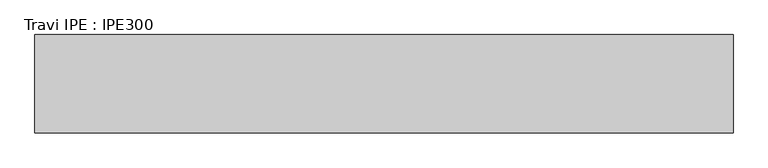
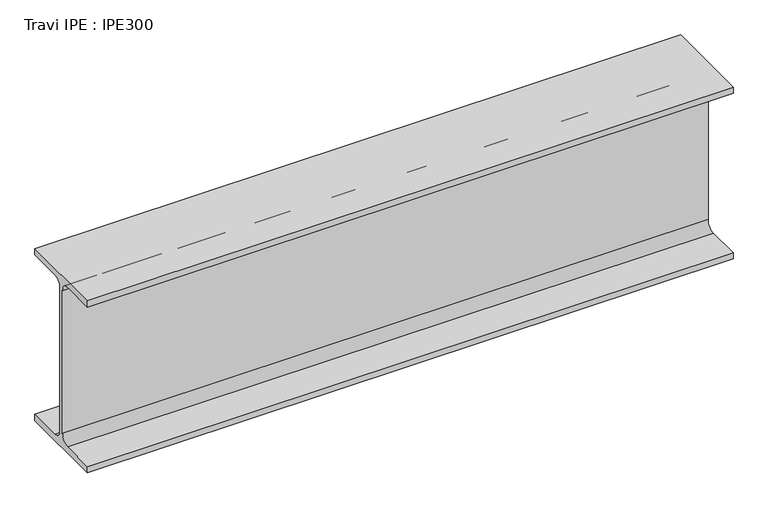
"""IFC4 building model written with IfcOpenShell, lengths in millimetres: beam geometry, Travi IPE : IPE300."""

import ifcopenshell
import ifcopenshell.guid

model = None  # the IFC model being written
_history = None  # IfcOwnerHistory: only IFC2X3 demands one
_inside = {}  # id of a spatial element -> (the spatial element, [elements in it])
_under = {}  # id of a project, library or spatial element -> (it, [spatial elements below it])
_declared = {}  # id of a project -> (the project, [libraries it declares])
_typed = {}  # id of a type object -> (the type object, [elements of that type])
_made_of = {}  # id of a material, layer set ... -> (it, [elements and type objects made of it])


def new_model(schema):
    """Start an empty IFC model of exactly this schema.

    Asked for "IFC4X3", IfcOpenShell would pick the latest addendum, in which some entities
    have other attributes; the version numbers below select the first issue.
    IFC2X3 requires an IfcOwnerHistory on every rooted entity: one is made here for all.
    """
    global model, _history
    if schema == "IFC4X3":
        model = ifcopenshell.file(schema_version=(4, 3, 0, 0))
    else:
        model = ifcopenshell.file(schema=schema)
    _inside.clear()
    _under.clear()
    _declared.clear()
    _typed.clear()
    _made_of.clear()
    _history = None
    if model.schema == "IFC2X3":
        org = make("IfcOrganization", Name="unknown")
        user = make(
            "IfcPersonAndOrganization",
            ThePerson=make("IfcPerson", FamilyName="unknown"),
            TheOrganization=org,
        )
        app = make(
            "IfcApplication",
            ApplicationDeveloper=org,
            Version="unknown",
            ApplicationFullName="unknown",
            ApplicationIdentifier="unknown",
        )
        _history = make(
            "IfcOwnerHistory",
            OwningUser=user,
            OwningApplication=app,
            ChangeAction="ADDED",
            CreationDate=0,
        )
    return model


def make(cls, **values):
    """One entity of the class cls with the attributes given. An attribute that is None is left unset."""
    return model.create_entity(
        cls, **{name: value for name, value in values.items() if value is not None}
    )


def rooted(cls, **values):
    """An entity with a GlobalId (a new one), such as an element, a storey or a relation."""
    return make(cls, GlobalId=ifcopenshell.guid.new(), OwnerHistory=_history, **values)


def si_unit(unit_type, name, prefix=None):
    """IfcSIUnit, for example si_unit("LENGTHUNIT", "METRE", prefix="MILLI")."""
    return make("IfcSIUnit", UnitType=unit_type, Prefix=prefix, Name=name)


def assignment(units):
    """IfcUnitAssignment: the units of a project."""
    return None if units is None else make("IfcUnitAssignment", Units=units)


def point(xyz):
    """IfcCartesianPoint."""
    return None if xyz is None else make("IfcCartesianPoint", Coordinates=xyz)


def direction(xyz):
    """IfcDirection."""
    return None if xyz is None else make("IfcDirection", DirectionRatios=xyz)


def frame(location, z_axis=None, x_axis=None):
    """IfcAxis2Placement3D, a coordinate frame: its origin and axes. An axis left out is left unset."""
    return make(
        "IfcAxis2Placement3D",
        Location=point(location),
        Axis=direction(z_axis),
        RefDirection=direction(x_axis),
    )


def frame_2d(location, x_axis=None):
    """IfcAxis2Placement2D, a coordinate frame in the plane: its origin and x axis."""
    return make(
        "IfcAxis2Placement2D", Location=point(location), RefDirection=direction(x_axis)
    )


def origin():
    """The frame at (0, 0, 0) with its axes left unset."""
    return frame((0.0, 0.0, 0.0))


def place(relative_to, where):
    """IfcLocalPlacement: puts the frame where relative to a parent placement (None: the world)."""
    return make(
        "IfcLocalPlacement", PlacementRelTo=relative_to, RelativePlacement=where
    )


def context(
    kind, dimensions, precision=None, world=None, true_north=None, identifier=None
):
    """IfcGeometricRepresentationContext, for example the 3D "Model" context."""
    return make(
        "IfcGeometricRepresentationContext",
        ContextIdentifier=identifier,
        ContextType=kind,
        CoordinateSpaceDimension=dimensions,
        Precision=precision,
        WorldCoordinateSystem=world,
        TrueNorth=true_north,
    )


def project(units=None, contexts=None):
    """IfcProject with its units and contexts."""
    return rooted(
        "IfcProject",
        Name="project",
        RepresentationContexts=contexts,
        UnitsInContext=assignment(units),
    )


def spatial(cls, under=None, at=None, **own):
    """A site, building, storey or space (cls), placed at a placement, below another one or the project."""
    s = rooted(cls, ObjectPlacement=at, **own)
    if under is not None:
        _under.setdefault(under.id(), (under, []))[1].append(s)
    return s


def polyline(points):
    """IfcPolyline through the points."""
    return make("IfcPolyline", Points=[point(p) for p in points])


def circle_curve(where, radius):
    """IfcCircle in the frame where."""
    return make("IfcCircle", Position=where, Radius=radius)


def trimmed(basis, trim1, trim2, sense, master):
    """IfcTrimmedCurve: the piece of a basis curve between two trims."""
    return make(
        "IfcTrimmedCurve",
        BasisCurve=basis,
        Trim1=trim1,
        Trim2=trim2,
        SenseAgreement=sense,
        MasterRepresentation=master,
    )


def segment(curve, same_sense, transition):
    """IfcCompositeCurveSegment."""
    return make(
        "IfcCompositeCurveSegment",
        Transition=transition,
        SameSense=same_sense,
        ParentCurve=curve,
    )


def composite_curve(segments, self_intersect=None):
    """IfcCompositeCurve: segments joined end to end."""
    return make("IfcCompositeCurve", Segments=segments, SelfIntersect=self_intersect)


def outline(outer, holes=None, kind="AREA"):
    """IfcArbitraryClosedProfileDef: a profile drawn as a closed curve; with holes, ...WithVoids."""
    if holes is None:
        return make("IfcArbitraryClosedProfileDef", ProfileType=kind, OuterCurve=outer)
    return make(
        "IfcArbitraryProfileDefWithVoids",
        ProfileType=kind,
        OuterCurve=outer,
        InnerCurves=holes,
    )


def extrude(swept, where, along, depth):
    """IfcExtrudedAreaSolid: the profile swept, set in the frame where, extruded along a direction by depth."""
    return make(
        "IfcExtrudedAreaSolid",
        SweptArea=swept,
        Position=where,
        ExtrudedDirection=direction(along),
        Depth=depth,
    )


def shape(context_of_items, identifier, shape_type, items):
    """IfcShapeRepresentation: the items that make up one representation, for example the "Body"."""
    return make(
        "IfcShapeRepresentation",
        ContextOfItems=context_of_items,
        RepresentationIdentifier=identifier,
        RepresentationType=shape_type,
        Items=items,
    )


def source(mapping_origin, context_of_items, identifier, shape_type, items):
    """IfcRepresentationMap: a shape defined once, which mapped items show again and again."""
    return make(
        "IfcRepresentationMap",
        MappingOrigin=mapping_origin,
        MappedRepresentation=shape(context_of_items, identifier, shape_type, items),
    )


def transform(
    local_origin,
    x_axis=None,
    y_axis=None,
    z_axis=None,
    scale=None,
    scale2=None,
    scale3=None,
    uniform=True,
):
    """IfcCartesianTransformationOperator3D, or its non-uniform kind. x_axis, y_axis, z_axis: its Axis1, 2, 3."""
    if uniform:
        return make(
            "IfcCartesianTransformationOperator3D",
            Axis1=direction(x_axis),
            Axis2=direction(y_axis),
            LocalOrigin=point(local_origin),
            Scale=scale,
            Axis3=direction(z_axis),
        )
    return make(
        "IfcCartesianTransformationOperator3DnonUniform",
        Axis1=direction(x_axis),
        Axis2=direction(y_axis),
        LocalOrigin=point(local_origin),
        Scale=scale,
        Axis3=direction(z_axis),
        Scale2=scale2,
        Scale3=scale3,
    )


def mapped(mapping_source, mapping_target):
    """IfcMappedItem: shows the shape of a source again, moved by a transform."""
    return make(
        "IfcMappedItem", MappingSource=mapping_source, MappingTarget=mapping_target
    )


def made_of(thing, what):
    """Note that an element or type object is made of a material, layer set ...; save() writes the relation."""
    if what is not None:
        _made_of.setdefault(what.id(), (what, []))[1].append(thing)
    return thing


def element(
    cls,
    number,
    at=None,
    inside=None,
    cuts=None,
    type_object=None,
    material=None,
    context=None,
    identifier="Body",
    shape_type=None,
    held_by="IfcProductDefinitionShape",
    body=None,
    shapes=None,
    **own,
):
    """One element of the class cls, such as IfcWall. Its Tag is "e" and its number.

    at: its placement. inside: the storey or other place that contains it. cuts: it is an
    opening in that element (IfcRelVoidsElement). A single representation is given by context,
    identifier, shape_type and body (its items); several are given by shapes. held_by: the class
    of the entity that holds the representations. save() writes the other relations.
    """
    e = rooted(cls, Tag="e%d" % number, ObjectPlacement=at, **own)
    if body is not None:
        shapes = [shape(context, identifier, shape_type, body)]
    if shapes is not None:
        e.Representation = make(held_by, Representations=shapes)
    if inside is not None:
        _inside.setdefault(inside.id(), (inside, []))[1].append(e)
    if cuts is not None:
        rooted(
            "IfcRelVoidsElement", RelatingBuildingElement=cuts, RelatedOpeningElement=e
        )
    if type_object is not None:
        _typed.setdefault(type_object.id(), (type_object, []))[1].append(e)
    return made_of(e, material)


def aggregate(whole, parts):
    """IfcRelAggregates: a whole, such as a stair, and the parts it consists of."""
    return rooted("IfcRelAggregates", RelatingObject=whole, RelatedObjects=parts)


def save(model, path):
    """Write the relations noted so far, then the file.

    IfcRelAggregates (storeys below a building ...), IfcRelContainedInSpatialStructure (elements
    in a storey), IfcRelDefinesByType, IfcRelAssociatesMaterial and IfcRelDeclares: one each for
    every whole, place, type object, material and project.
    """
    for whole, parts in _under.values():
        aggregate(whole, parts)
    for where, things in _inside.values():
        rooted(
            "IfcRelContainedInSpatialStructure",
            RelatedElements=things,
            RelatingStructure=where,
        )
    for kind, things in _typed.values():
        rooted("IfcRelDefinesByType", RelatedObjects=things, RelatingType=kind)
    for what, things in _made_of.values():
        rooted("IfcRelAssociatesMaterial", RelatedObjects=things, RelatingMaterial=what)
    for by, libraries in _declared.values():
        rooted("IfcRelDeclares", RelatingContext=by, RelatedDefinitions=libraries)
    model.write(path)


def travi_ipe_ipe300_a3e41ca1(model_context):
    return source(origin(), model_context, "Body", "SweptSolid", [
        extrude(outline(composite_curve([segment(polyline([(75.0, -139.3), (75.0, -150.0), (-75.0, -150.0), (-75.0, -139.3), (-18.55, -139.3)]), True, "CONTINUOUS"), segment(trimmed(circle_curve(frame_2d((-18.55, -124.3)), 15.0), [point((-18.55, -139.3))], [point((-3.55, -124.3))], True, "CARTESIAN"), True, "CONTINUOUS"), segment(polyline([(-3.55, -124.3), (-3.55, 124.3)]), True, "CONTINUOUS"), segment(trimmed(circle_curve(frame_2d((-18.55, 124.3)), 15.0), [point((-3.55, 124.3))], [point((-18.55, 139.3))], True, "CARTESIAN"), True, "CONTINUOUS"), segment(polyline([(-18.55, 139.3), (-75.0, 139.3), (-75.0, 150.0), (75.0, 150.0), (75.0, 139.3), (18.55, 139.3)]), True, "CONTINUOUS"), segment(trimmed(circle_curve(frame_2d((18.55, 124.3)), 15.0), [point((18.55, 139.3))], [point((3.55, 124.3))], True, "CARTESIAN"), True, "CONTINUOUS"), segment(polyline([(3.55, 124.3), (3.55, -124.3)]), True, "CONTINUOUS"), segment(trimmed(circle_curve(frame_2d((18.55, -124.3)), 15.0), [point((3.55, -124.3))], [point((18.55, -139.3))], True, "CARTESIAN"), True, "CONTINUOUS"), segment(polyline([(18.55, -139.3), (75.0, -139.3)]), True, "CONTINUOUS")], self_intersect=False)), frame((-532.5, 0.0, 0.0), z_axis=(1.0, 0.0, 0.0), x_axis=(0.0, 1.0, 0.0)), (0.0, 0.0, 1.0), 1066.0),
    ])


if __name__ == "__main__":
    model = new_model("IFC4")
    model_context = context("Model", 3, world=origin())
    ifc_project = project(units=[si_unit("LENGTHUNIT", "METRE", prefix="MILLI")], contexts=[model_context])
    site = spatial("IfcSite", under=ifc_project)
    building = spatial("IfcBuilding", under=site)
    placement = place(None, origin())
    travi_ipe_ipe300_shape = travi_ipe_ipe300_a3e41ca1(model_context)
    element("IfcBeam", 1, ObjectType="Travi IPE : IPE300", at=placement, inside=building, context=model_context, shape_type="MappedRepresentation", body=[
        mapped(travi_ipe_ipe300_shape, transform((0.0, 0.0, 0.0), x_axis=(1.0, 0.0, 0.0), y_axis=(0.0, 1.0, 0.0), z_axis=(0.0, 0.0, 1.0))),
    ])
    save(model, "model.ifc")
